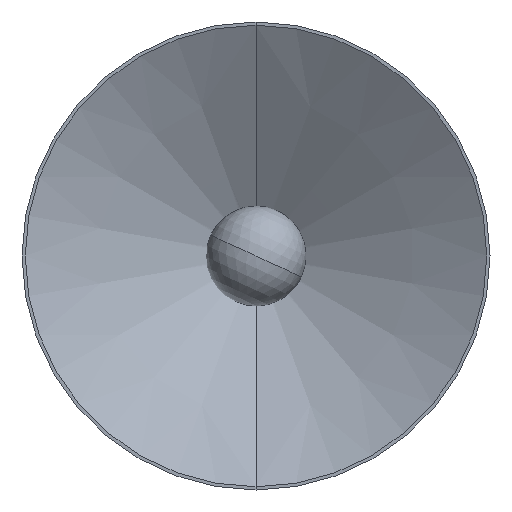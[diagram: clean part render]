
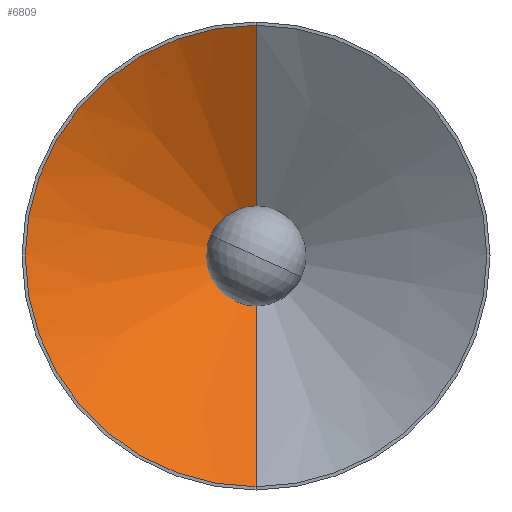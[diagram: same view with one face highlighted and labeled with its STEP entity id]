
A CAD part, front view. The second image highlights one B-rep face of the part: STEP entity #6809.
In plain terms, the highlighted conical face has half-angle 59.302 degrees and reference radius 11.338 mm.
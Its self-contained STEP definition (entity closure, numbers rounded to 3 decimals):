
#423 = DIRECTION ( 'NONE',  ( 0., 1., 0. ) ) ;
#489 = CIRCLE ( 'NONE', #13575, 12.046 ) ;
#1134 = CARTESIAN_POINT ( 'NONE',  ( 0., -1.5, 0. ) ) ;
#1554 = VERTEX_POINT ( 'NONE', #5086 ) ;
#1638 = DIRECTION ( 'NONE',  ( 0., -0.511, -0.86 ) ) ;
#1924 = CARTESIAN_POINT ( 'NONE',  ( 0., -118., 207.562 ) ) ;
#1943 = EDGE_CURVE ( 'NONE', #11343, #2508, #13708, .T. ) ;
#2508 = VERTEX_POINT ( 'NONE', #1924 ) ;
#2723 = FACE_OUTER_BOUND ( 'NONE', #5712, .T. ) ;
#3147 = VECTOR ( 'NONE', #1638, 1000. ) ;
#3611 = CARTESIAN_POINT ( 'NONE',  ( 0., -1.92, 12.046 ) ) ;
#5086 = CARTESIAN_POINT ( 'NONE',  ( 0., -1.92, -12.046 ) ) ;
#5712 = EDGE_LOOP ( 'NONE', ( #15503, #13043, #18682, #17434 ) ) ;
#5996 = EDGE_CURVE ( 'NONE', #1554, #8873, #10411, .T. ) ;
#6039 = DIRECTION ( 'NONE',  ( 0., -1., 0. ) ) ;
#6809 = ADVANCED_FACE ( 'NONE', ( #2723 ), #15499, .F. ) ;
#8468 = CARTESIAN_POINT ( 'NONE',  ( 0., -1.5, 11.338 ) ) ;
#8873 = VERTEX_POINT ( 'NONE', #13225 ) ;
#9080 = CARTESIAN_POINT ( 'NONE',  ( 0., -1.92, 0. ) ) ;
#9753 = VECTOR ( 'NONE', #10638, 1000. ) ;
#10411 = LINE ( 'NONE', #11780, #3147 ) ;
#10638 = DIRECTION ( 'NONE',  ( 0., -0.511, 0.86 ) ) ;
#11343 = VERTEX_POINT ( 'NONE', #3611 ) ;
#11780 = CARTESIAN_POINT ( 'NONE',  ( 0., -1.5, -11.338 ) ) ;
#13043 = ORIENTED_EDGE ( 'NONE', *, *, #1943, .T. ) ;
#13143 = CIRCLE ( 'NONE', #17453, 207.562 ) ;
#13225 = CARTESIAN_POINT ( 'NONE',  ( 0., -118., -207.562 ) ) ;
#13575 = AXIS2_PLACEMENT_3D ( 'NONE', #9080, #423, #18133 ) ;
#13708 = LINE ( 'NONE', #8468, #9753 ) ;
#14238 = EDGE_CURVE ( 'NONE', #1554, #11343, #489, .T. ) ;
#14888 = DIRECTION ( 'NONE',  ( 0., 0., 1. ) ) ;
#15499 = CONICAL_SURFACE ( 'NONE', #19584, 11.338, 1.035 ) ;
#15503 = ORIENTED_EDGE ( 'NONE', *, *, #14238, .T. ) ;
#17434 = ORIENTED_EDGE ( 'NONE', *, *, #5996, .F. ) ;
#17453 = AXIS2_PLACEMENT_3D ( 'NONE', #21447, #18040, #14888 ) ;
#17953 = DIRECTION ( 'NONE',  ( 0., 0., -1. ) ) ;
#18040 = DIRECTION ( 'NONE',  ( 0., 1., 0. ) ) ;
#18133 = DIRECTION ( 'NONE',  ( 0., 0., -1. ) ) ;
#18682 = ORIENTED_EDGE ( 'NONE', *, *, #22129, .F. ) ;
#19584 = AXIS2_PLACEMENT_3D ( 'NONE', #1134, #6039, #17953 ) ;
#21447 = CARTESIAN_POINT ( 'NONE',  ( 0., -118., 0. ) ) ;
#22129 = EDGE_CURVE ( 'NONE', #8873, #2508, #13143, .T. ) ;
